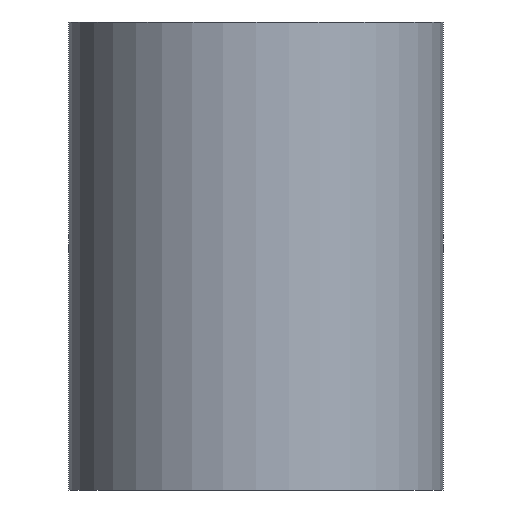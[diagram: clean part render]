
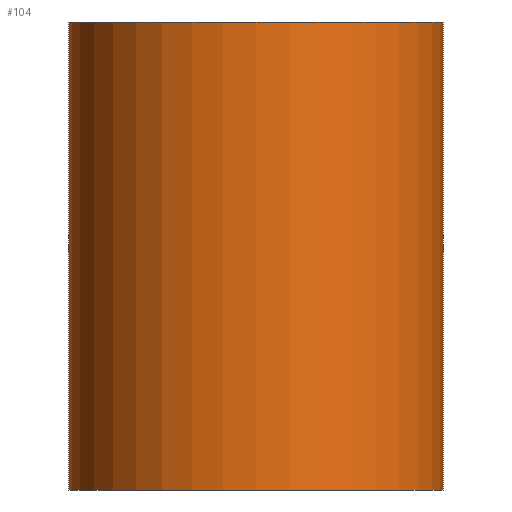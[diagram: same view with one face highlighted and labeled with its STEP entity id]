
A CAD part, left-side view. The second image highlights one B-rep face of the part: STEP entity #104.
In plain terms, the highlighted cylindrical face has radius 10 mm (diameter 20 mm), a partial arc.
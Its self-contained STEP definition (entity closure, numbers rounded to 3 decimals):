
#104=ADVANCED_FACE('',(#114),#110,.T.);
#110=CYLINDRICAL_SURFACE('',#191,10.);
#114=FACE_OUTER_BOUND('',#118,.T.);
#118=EDGE_LOOP('',(#137,#138,#139,#140));
#127=CIRCLE('',#189,10.);
#128=CIRCLE('',#190,10.);
#137=ORIENTED_EDGE('',*,*,#165,.F.);
#138=ORIENTED_EDGE('',*,*,#169,.T.);
#139=ORIENTED_EDGE('',*,*,#167,.T.);
#140=ORIENTED_EDGE('',*,*,#170,.F.);
#157=VERTEX_POINT('',#236);
#158=VERTEX_POINT('',#237);
#159=VERTEX_POINT('',#239);
#160=VERTEX_POINT('',#241);
#165=EDGE_CURVE('',#157,#158,#177,.T.);
#167=EDGE_CURVE('',#160,#159,#178,.T.);
#169=EDGE_CURVE('',#157,#160,#127,.T.);
#170=EDGE_CURVE('',#158,#159,#128,.T.);
#177=LINE('',#235,#181);
#178=LINE('',#240,#182);
#181=VECTOR('',#202,1.);
#182=VECTOR('',#205,1.);
#189=AXIS2_PLACEMENT_3D('',#244,#210,#211);
#190=AXIS2_PLACEMENT_3D('',#245,#212,#213);
#191=AXIS2_PLACEMENT_3D('',#246,#214,#215);
#202=DIRECTION('',(0.,0.,1.));
#205=DIRECTION('',(0.,0.,1.));
#210=DIRECTION('',(0.,0.,1.));
#211=DIRECTION('',(1.,0.,0.));
#212=DIRECTION('',(0.,0.,1.));
#213=DIRECTION('',(1.,0.,0.));
#214=DIRECTION('',(0.,0.,1.));
#215=DIRECTION('',(-1.,0.,0.));
#235=CARTESIAN_POINT('',(0.,10.,0.));
#236=CARTESIAN_POINT('',(0.,10.,-25.));
#237=CARTESIAN_POINT('',(0.,10.,0.));
#239=CARTESIAN_POINT('',(0.,-10.,0.));
#240=CARTESIAN_POINT('',(0.,-10.,0.));
#241=CARTESIAN_POINT('',(0.,-10.,-25.));
#244=CARTESIAN_POINT('',(0.,0.,-25.));
#245=CARTESIAN_POINT('',(0.,0.,0.));
#246=CARTESIAN_POINT('',(0.,0.,-25.));
